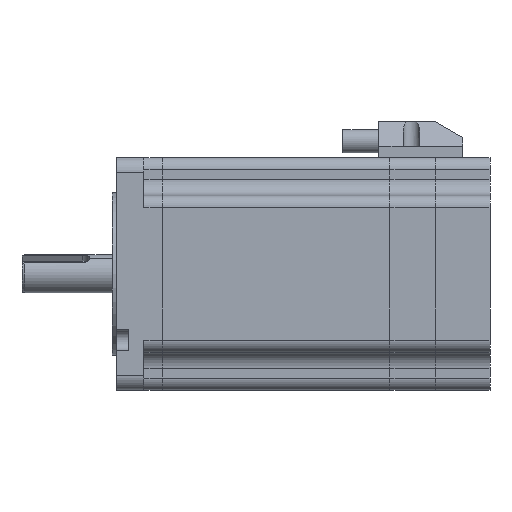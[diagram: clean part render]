
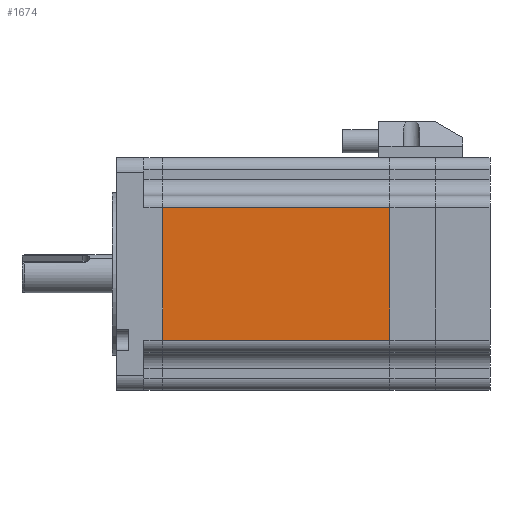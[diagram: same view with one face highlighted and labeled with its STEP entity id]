
A CAD part, left-side view. The second image highlights one B-rep face of the part: STEP entity #1674.
In plain terms, the highlighted planar face has unit normal (-1, 0, 0).
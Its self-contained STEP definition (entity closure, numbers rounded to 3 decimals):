
#155 = VECTOR ( 'NONE', #7149, 1000. ) ;
#461 = VERTEX_POINT ( 'NONE', #3947 ) ;
#1100 = DIRECTION ( 'NONE',  ( 0., -1., 0. ) ) ;
#1218 = CARTESIAN_POINT ( 'NONE',  ( -43., 84., 24.5 ) ) ;
#1674 = ADVANCED_FACE ( 'NONE', ( #2535 ), #4865, .F. ) ;
#1733 = ORIENTED_EDGE ( 'NONE', *, *, #5916, .F. ) ;
#1832 = LINE ( 'NONE', #5960, #155 ) ;
#1966 = DIRECTION ( 'NONE',  ( 1., 0., 0. ) ) ;
#2021 = CARTESIAN_POINT ( 'NONE',  ( -43., 84., 24.5 ) ) ;
#2158 = ORIENTED_EDGE ( 'NONE', *, *, #6282, .T. ) ;
#2535 = FACE_OUTER_BOUND ( 'NONE', #5473, .T. ) ;
#3156 = VECTOR ( 'NONE', #1100, 1000. ) ;
#3929 = DIRECTION ( 'NONE',  ( 0., 0., 1. ) ) ;
#3947 = CARTESIAN_POINT ( 'NONE',  ( -43., 0., -24.5 ) ) ;
#4194 = VERTEX_POINT ( 'NONE', #4219 ) ;
#4219 = CARTESIAN_POINT ( 'NONE',  ( -43., 0., 24.5 ) ) ;
#4626 = CARTESIAN_POINT ( 'NONE',  ( -43., 84., -24.5 ) ) ;
#4721 = DIRECTION ( 'NONE',  ( 0., -1., 0. ) ) ;
#4865 = PLANE ( 'NONE',  #5474 ) ;
#4973 = VECTOR ( 'NONE', #3929, 1000. ) ;
#5034 = LINE ( 'NONE', #5652, #4973 ) ;
#5344 = VERTEX_POINT ( 'NONE', #2021 ) ;
#5414 = LINE ( 'NONE', #6490, #6692 ) ;
#5473 = EDGE_LOOP ( 'NONE', ( #5885, #7258, #1733, #2158 ) ) ;
#5474 = AXIS2_PLACEMENT_3D ( 'NONE', #7211, #1966, #5482 ) ;
#5482 = DIRECTION ( 'NONE',  ( 0., 0., -1. ) ) ;
#5652 = CARTESIAN_POINT ( 'NONE',  ( -43., 84., 0. ) ) ;
#5885 = ORIENTED_EDGE ( 'NONE', *, *, #6798, .T. ) ;
#5916 = EDGE_CURVE ( 'NONE', #6557, #5344, #5034, .T. ) ;
#5960 = CARTESIAN_POINT ( 'NONE',  ( -43., 0., 0. ) ) ;
#6116 = EDGE_CURVE ( 'NONE', #5344, #4194, #6448, .T. ) ;
#6282 = EDGE_CURVE ( 'NONE', #6557, #461, #5414, .T. ) ;
#6448 = LINE ( 'NONE', #1218, #3156 ) ;
#6490 = CARTESIAN_POINT ( 'NONE',  ( -43., 84., -24.5 ) ) ;
#6557 = VERTEX_POINT ( 'NONE', #4626 ) ;
#6692 = VECTOR ( 'NONE', #4721, 1000. ) ;
#6798 = EDGE_CURVE ( 'NONE', #461, #4194, #1832, .T. ) ;
#7149 = DIRECTION ( 'NONE',  ( 0., 0., 1. ) ) ;
#7211 = CARTESIAN_POINT ( 'NONE',  ( -43., 84., 0. ) ) ;
#7258 = ORIENTED_EDGE ( 'NONE', *, *, #6116, .F. ) ;
